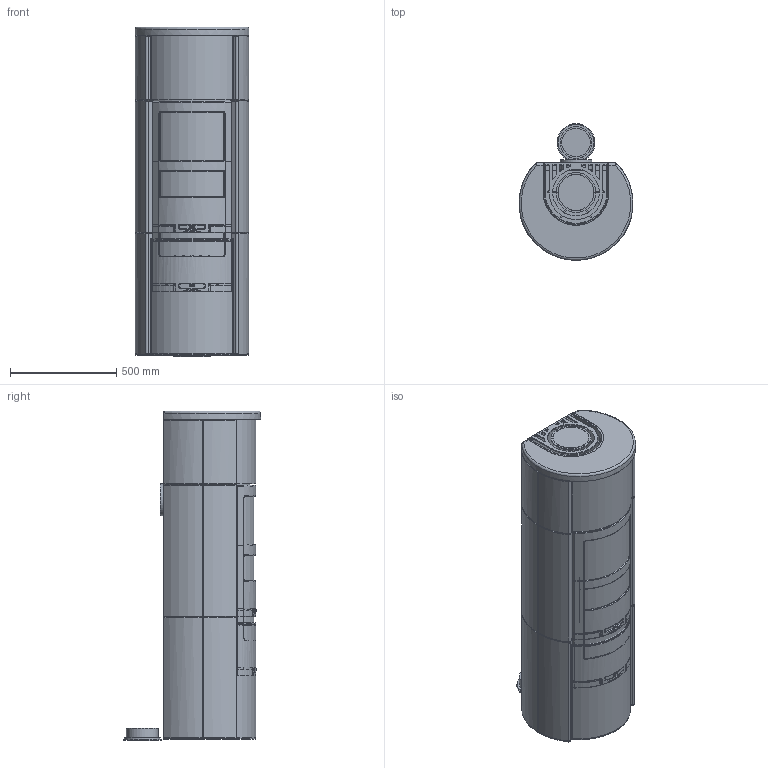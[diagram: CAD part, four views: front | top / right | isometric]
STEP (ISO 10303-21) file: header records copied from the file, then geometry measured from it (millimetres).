
FILE_DESCRIPTION( ( 'Unknown' ), '1' );
FILE_NAME( 'C:/Users/HAnilsd/AppData/Roaming/Unigraphics Solutions/Solid Edge/Insight/insight/insight/interior models/C590T Assembly.stp', 'Unknown', ( 'Unknown' ), ( 'Unknown' ), 'PSStep 13.0', 'Unknown', ' ' );
FILE_SCHEMA( ( 'AUTOMOTIVE_DESIGN { 1 0 10303 214 1 1 1 1 }' ) );
Length unit declared in the file: millimetre
Products named in the file (19): Assem1; Upper Front; Lower Front Big; Door C590; Lid Lattice C590; Lattice C590; Soapstone Set C590T; Rear C590T; Foot C590T; Insert C500; Lid; Glass C500; Fire C500; Vermiculite C500; Bottom Cast Iron C500; Connection; Inside Shielding C510
Bounding box: 536 x 645.35 x 1552.15 mm (x, y, z)
Volume: 533264955.9 mm3; surface area: 23809743.8 mm2
Topology: 42 solids, 42 shells, 2907 faces, 7723 edges, 5003 vertices
Faces by surface type: plane 1645, cylinder 650, bspline 266, extrusion 240, torus 64, sphere 30, cone 12
Full cylindrical faces by diameter (mm): 62 x2, 66 x2, 109 x4, 110 x4, 134 x3, 150 x3, 168 x2, 170 x5, 178 x3, 202 x2, 212 x2
Entity records: 100578 total; most frequent: CARTESIAN_POINT 54559, ORIENTED_EDGE 7606, DIRECTION 6170, EDGE_CURVE 3803, VERTEX_POINT 2478, VECTOR 2336, LINE 2216, AXIS2_PLACEMENT_3D 1917
